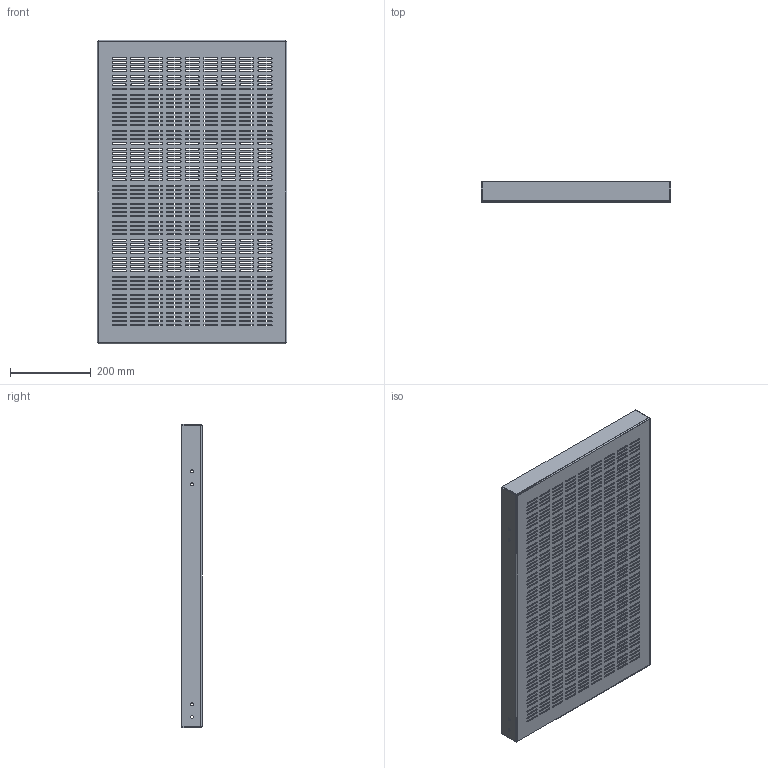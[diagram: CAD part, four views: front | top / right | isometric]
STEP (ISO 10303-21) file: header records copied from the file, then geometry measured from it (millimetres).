
FILE_DESCRIPTION (( 'STEP AP203' ), '1' );
FILE_NAME ('SHTH0608_V0.STEP', '2018-04-16T10:21:13', ( '' ), ( '' ), 'SwSTEP 2.0', 'SolidWorks 2017', '' );
FILE_SCHEMA (( 'CONFIG_CONTROL_DESIGN' ));
Length unit declared in the file: millimetre
Products named in the file (2): SHTH0608_V0
Bounding box: 470 x 50 x 750 mm (x, y, z)
Volume: 797855.1 mm3; surface area: 883801.2 mm2
Topology: 1 solids, 1 shells, 2226 faces, 6644 edges, 4420 vertices
Faces by surface type: plane 1118, cylinder 1108
Entity records: 77731 total; most frequent: DIRECTION 13320, CARTESIAN_POINT 13292, ORIENTED_EDGE 13288, EDGE_CURVE 6644, AXIS2_PLACEMENT_3D 4448, LINE 4424, VECTOR 4424, VERTEX_POINT 4420
